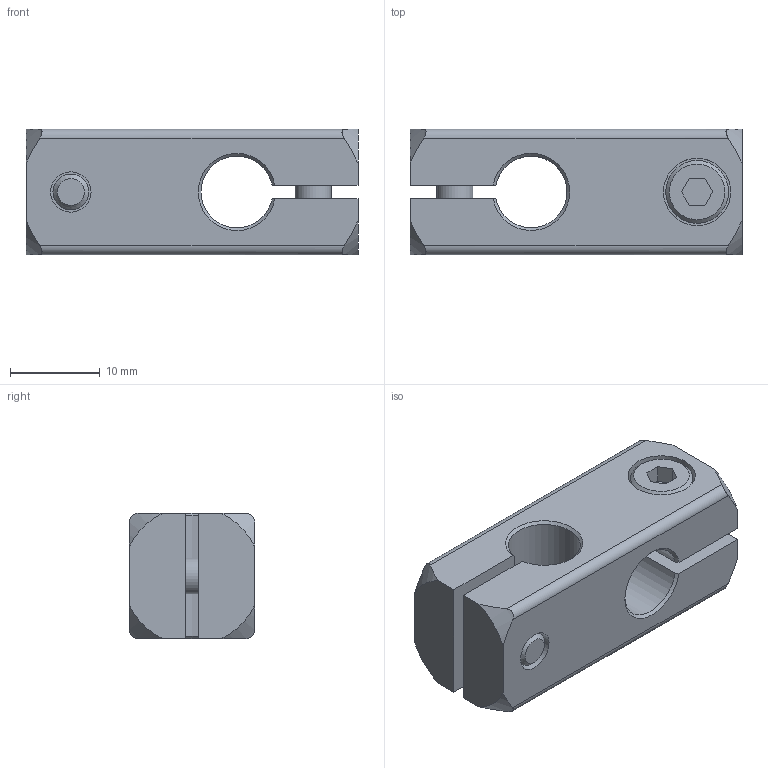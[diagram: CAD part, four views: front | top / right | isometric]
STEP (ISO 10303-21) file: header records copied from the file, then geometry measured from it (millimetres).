
FILE_DESCRIPTION( ( 'STEP AP203' ), '1' );
FILE_NAME( 'C:/Temp/Ganter_Step_05_03_2020/data/3_7/gn_474/Two-way clamp mounting GN 474-B8-B8-ELS.stp', '2020-03-12T14:44:39', ( 'License CC BY-ND 4.0' ), ( 'CADENAS' ), ' ', 'PARTsolutions', ' ' );
FILE_SCHEMA( ( 'CONFIG_CONTROL_DESIGN' ) );
Length unit declared in the file: millimetre
Products named in the file (1): _Two-way clamp mounting GN 474-B8-B8-ELS
Bounding box: 37 x 14 x 14 mm (x, y, z)
Volume: 5278.6 mm3; surface area: 4059.1 mm2
Topology: 1 solids, 1 shells, 66 faces, 160 edges, 106 vertices
Faces by surface type: plane 34, cone 16, cylinder 16
Full cylindrical faces by diameter (mm): 4 x2, 4.5 x4, 7 x2, 7.5 x2
Entity records: 2004 total; most frequent: CARTESIAN_POINT 491, ORIENTED_EDGE 288, DIRECTION 286, EDGE_CURVE 144, AXIS2_PLACEMENT_3D 107, VERTEX_POINT 104, EDGE_LOOP 94, FACE_OUTER_BOUND 76
